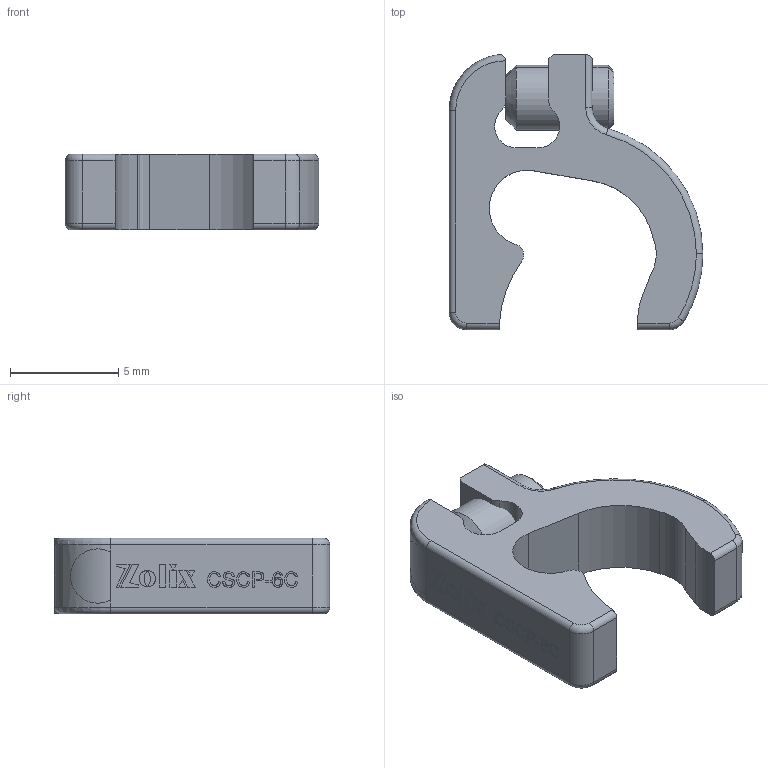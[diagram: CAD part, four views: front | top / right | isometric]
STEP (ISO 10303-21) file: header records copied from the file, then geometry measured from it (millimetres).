
FILE_DESCRIPTION (( 'STEP AP203' ), '1' );
FILE_NAME ('CSCP-6C.STEP', '2023-11-24T04:54:33', ( '' ), ( '' ), 'SwSTEP 2.0', 'SolidWorks 2021', '' );
FILE_SCHEMA (( 'CONFIG_CONTROL_DESIGN' ));
Length unit declared in the file: millimetre
Products named in the file (1): CSCP-6C
Bounding box: 11.7 x 12.7 x 3.5 mm (x, y, z)
Surface area: 404.6 mm2 (no closed solid volume)
Topology: 0 solids, 2 shells, 195 faces, 774 edges, 560 vertices
Faces by surface type: plane 103, bspline 46, cylinder 30, torus 12, cone 4
Entity records: 11497 total; most frequent: CARTESIAN_POINT 5441, ORIENTED_EDGE 1224, DIRECTION 1029, EDGE_CURVE 774, VECTOR 561, LINE 561, VERTEX_POINT 560, AXIS2_PLACEMENT_3D 234
